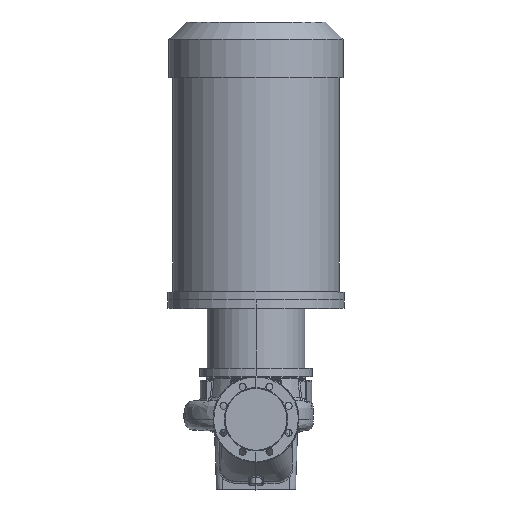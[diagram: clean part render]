
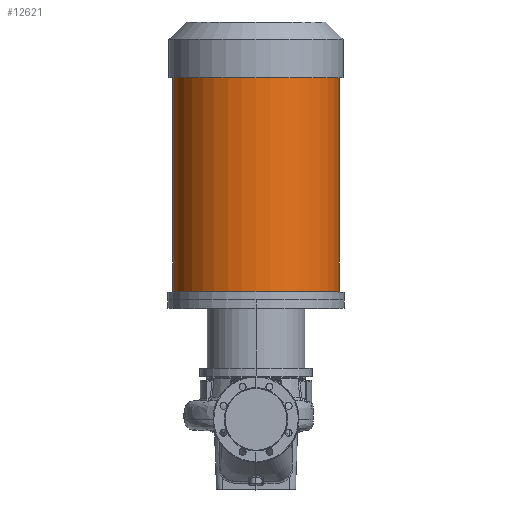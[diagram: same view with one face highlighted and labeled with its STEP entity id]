
A CAD part, top view. The second image highlights one B-rep face of the part: STEP entity #12621.
In plain terms, the highlighted cylindrical face has radius 212.5 mm (diameter 425 mm), a partial arc.
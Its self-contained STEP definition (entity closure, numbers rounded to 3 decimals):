
#585 = ORIENTED_EDGE ( 'NONE', *, *, #23647, .F. ) ;
#3988 = CARTESIAN_POINT ( 'NONE',  ( 0., 873.8, 0. ) ) ;
#8007 = DIRECTION ( 'NONE',  ( -1., 0., 0. ) ) ;
#9007 = VERTEX_POINT ( 'NONE', #9472 ) ;
#9472 = CARTESIAN_POINT ( 'NONE',  ( -212.5, 325.8, 0. ) ) ;
#12621 = ADVANCED_FACE ( 'NONE', ( #46595 ), #56380, .T. ) ;
#13011 = EDGE_LOOP ( 'NONE', ( #585, #35538, #13387, #48395 ) ) ;
#13387 = ORIENTED_EDGE ( 'NONE', *, *, #36044, .T. ) ;
#14559 = LINE ( 'NONE', #35230, #22813 ) ;
#16745 = EDGE_CURVE ( 'NONE', #38754, #26444, #52462, .T. ) ;
#18821 = CARTESIAN_POINT ( 'NONE',  ( 0., 325.8, 0. ) ) ;
#19362 = DIRECTION ( 'NONE',  ( 0., -1., 0. ) ) ;
#22813 = VECTOR ( 'NONE', #39859, 1000. ) ;
#23021 = AXIS2_PLACEMENT_3D ( 'NONE', #3988, #37324, #47486 ) ;
#23647 = EDGE_CURVE ( 'NONE', #38754, #54370, #42546, .T. ) ;
#24002 = CARTESIAN_POINT ( 'NONE',  ( 212.5, 873.8, 0. ) ) ;
#26444 = VERTEX_POINT ( 'NONE', #59077 ) ;
#26632 = VECTOR ( 'NONE', #19362, 1000. ) ;
#27586 = AXIS2_PLACEMENT_3D ( 'NONE', #18821, #43092, #62493 ) ;
#28697 = DIRECTION ( 'NONE',  ( 0., -1., 0. ) ) ;
#35230 = CARTESIAN_POINT ( 'NONE',  ( -212.5, 305.8, 0. ) ) ;
#35538 = ORIENTED_EDGE ( 'NONE', *, *, #16745, .T. ) ;
#36044 = EDGE_CURVE ( 'NONE', #26444, #9007, #14559, .T. ) ;
#37324 = DIRECTION ( 'NONE',  ( 0., -1., 0. ) ) ;
#38258 = AXIS2_PLACEMENT_3D ( 'NONE', #41570, #28697, #8007 ) ;
#38754 = VERTEX_POINT ( 'NONE', #24002 ) ;
#38937 = CIRCLE ( 'NONE', #27586, 212.5 ) ;
#39859 = DIRECTION ( 'NONE',  ( 0., -1., 0. ) ) ;
#41570 = CARTESIAN_POINT ( 'NONE',  ( 0., 305.8, 0. ) ) ;
#42546 = LINE ( 'NONE', #52913, #26632 ) ;
#43092 = DIRECTION ( 'NONE',  ( 0., -1., 0. ) ) ;
#46595 = FACE_OUTER_BOUND ( 'NONE', #13011, .T. ) ;
#46804 = EDGE_CURVE ( 'NONE', #54370, #9007, #38937, .T. ) ;
#47486 = DIRECTION ( 'NONE',  ( -1., 0., 0. ) ) ;
#48395 = ORIENTED_EDGE ( 'NONE', *, *, #46804, .F. ) ;
#52462 = CIRCLE ( 'NONE', #23021, 212.5 ) ;
#52913 = CARTESIAN_POINT ( 'NONE',  ( 212.5, 305.8, 0. ) ) ;
#54370 = VERTEX_POINT ( 'NONE', #57168 ) ;
#56380 = CYLINDRICAL_SURFACE ( 'NONE', #38258, 212.5 ) ;
#57168 = CARTESIAN_POINT ( 'NONE',  ( 212.5, 325.8, 0. ) ) ;
#59077 = CARTESIAN_POINT ( 'NONE',  ( -212.5, 873.8, 0. ) ) ;
#62493 = DIRECTION ( 'NONE',  ( -1., 0., 0. ) ) ;
